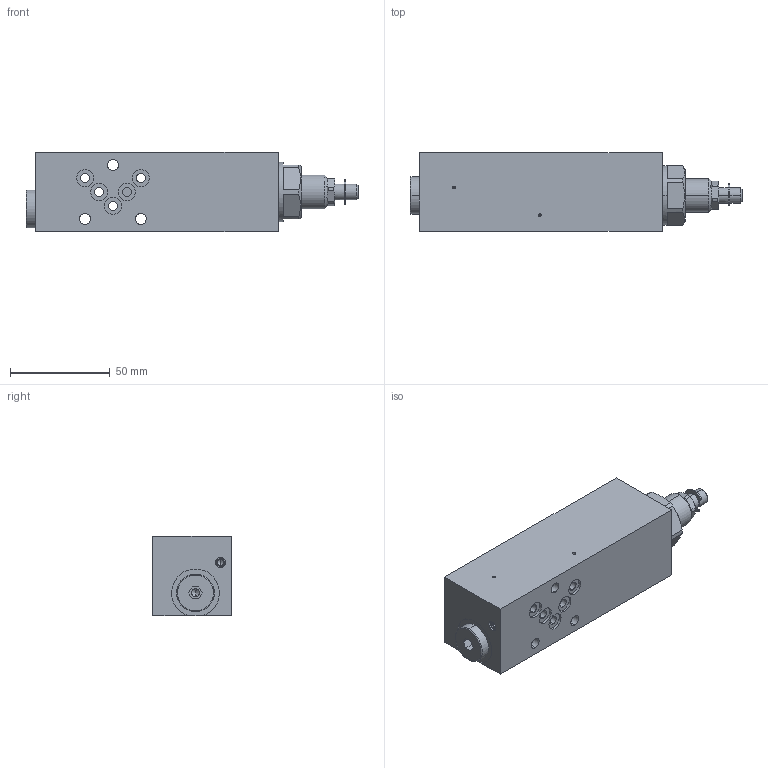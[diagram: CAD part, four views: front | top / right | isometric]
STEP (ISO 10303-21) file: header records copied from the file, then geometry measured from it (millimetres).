
FILE_DESCRIPTION (( 'STEP AP214' ), '1' );
FILE_NAME ('MVSSA04-B.STEP', '2017-03-23T06:31:53', ( '' ), ( '' ), 'SwSTEP 2.0', 'SolidWorks 2016', '' );
FILE_SCHEMA (( 'AUTOMOTIVE_DESIGN' ));
Length unit declared in the file: millimetre
Products named in the file (1): MVSSA04-B
Bounding box: 166.8 x 39.5 x 40 mm (x, y, z)
Volume: 198781.4 mm3; surface area: 30793 mm2
Topology: 3 solids, 6 shells, 312 faces, 800 edges, 504 vertices
Faces by surface type: plane 134, cylinder 107, cone 61, sphere 8, torus 2
Entity records: 13060 total; most frequent: CARTESIAN_POINT 2018, DIRECTION 1655, ORIENTED_EDGE 1552, EDGE_CURVE 776, AXIS2_PLACEMENT_3D 655, VERTEX_POINT 504, EDGE_LOOP 354, LINE 345
